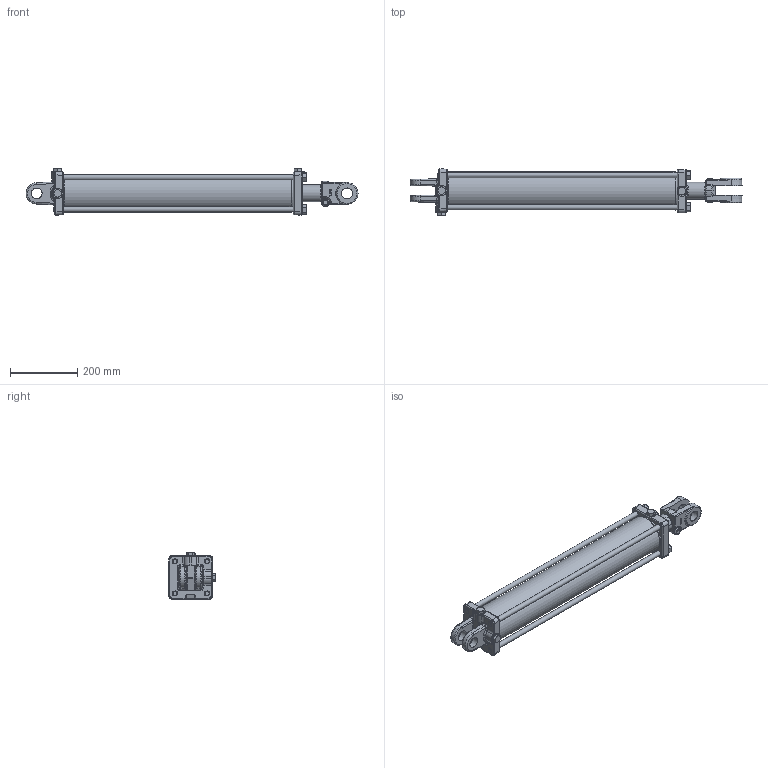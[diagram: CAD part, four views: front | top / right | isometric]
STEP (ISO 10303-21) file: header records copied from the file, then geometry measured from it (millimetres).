
FILE_DESCRIPTION((''),'2;1');
FILE_NAME('\\SRVR-ENG\EngSales\c400240ABDDA07B.stp','2012-07-09T09:04:50',('KneiflD'),(''),'Autodesk Inventor 2012','Autodesk Inventor 2012','');
FILE_SCHEMA(('AUTOMOTIVE_DESIGN { 1 0 10303 214 1 1 1 1 }'));
Length unit declared in the file: inch
Products named in the file (15): c400240ABDDA07B; 1419007SF; 011131438d; 220000212; 071900260V; 0819BBNSFV; 100000328; 100000327; 170002105; 220000223; 170301294V; 800006201V_29.5; 220000107V; 200300040V; 051926563AV
Assembly tree (19 placements, depth 3):
  c400240ABDDA07B
    1419007SF
    011131438d
    220000212
    071900260V
    0819BBNSFV
    100000328
      100000327
      170002105
      220000223
    170301294V  x4
      800006201V_29.5
      220000107V
    200300040V  x3
    051926563AV
Bounding box: 984.84 x 137.01 x 137.01 mm (x, y, z)
Volume: 4708143.1 mm3; surface area: 979043.3 mm2
Topology: 20 solids, 20 shells, 824 faces, 1895 edges, 1117 vertices
Faces by surface type: plane 237, cylinder 195, bspline 176, cone 157, torus 53, sphere 6
Full cylindrical faces by diameter (mm): 7.938 x3, 9.144 x1, 11.113 x2, 11.906 x2, 14.351 x4, 14.529 x4, 14.834 x4, 15.707 x1, 16.272 x4, 16.764 x3, 17.066 x2, 17.335 x1, 17.501 x2, 19.05 x3, 29.464 x1, 31.699 x1, 31.826 x1, 32.131 x4, 34.315 x1, 35.331 x1, 37.897 x1, 44.526 x2, 50.8 x1, 54 x1, 57.15 x1, 73.152 x1, 92.024 x1, 95.021 x1, 95.936 x1, 95.961 x1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
Entity records: 27372 total; most frequent: CARTESIAN_POINT 12825, ORIENTED_EDGE 2884, DIRECTION 2647, EDGE_CURVE 1442, AXIS2_PLACEMENT_3D 1104, VERTEX_POINT 924, EDGE_LOOP 872, FACE_OUTER_BOUND 684
